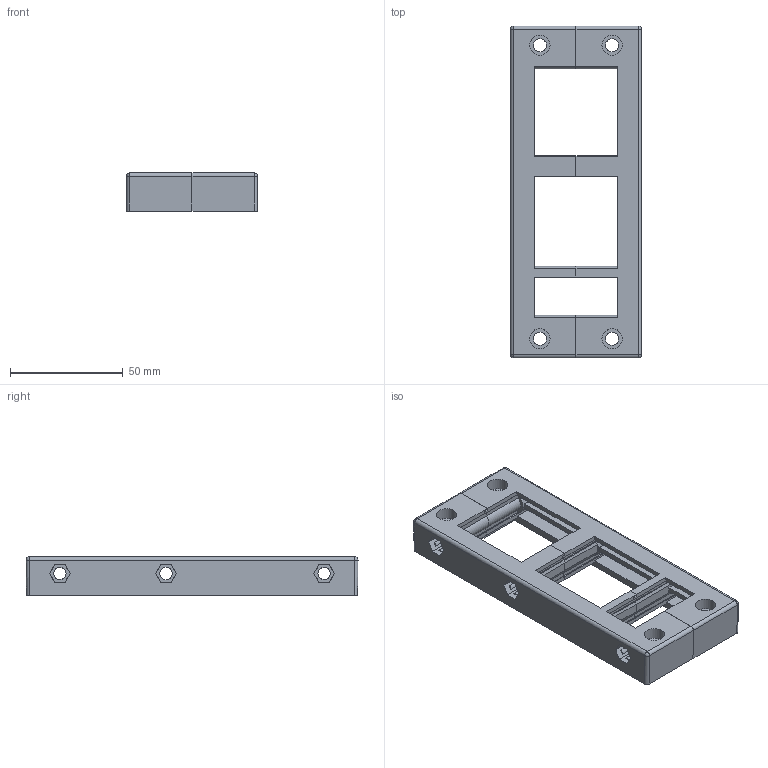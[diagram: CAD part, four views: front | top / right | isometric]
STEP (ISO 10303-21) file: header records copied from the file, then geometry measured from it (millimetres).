
FILE_DESCRIPTION(/* description */ (''),/* implementation_level */ '2;1');
FILE_NAME(/* name */ 'KEL-24-4.stp',/* time_stamp */ '2024-04-20T10:51:16+08:00',/* author */ (''),/* organization */ (''),/* preprocessor_version */ 'ST-DEVELOPER v16.7',/* originating_system */ 'SIEMENS PLM Software NX 12.0',/* authorisation */ '');
FILE_SCHEMA (('AP203_CONFIGURATION_CONTROLLED_3D_DESIGN_OF_MECHANICAL_PARTS_AND_ASSEMBLIES_MIM_LF { 1 0 10303 403 2 1 2}'));
Length unit declared in the file: millimetre
Products named in the file (1): Admi2C5090A07yak
Bounding box: 58 x 147 x 17 mm (x, y, z)
Volume: 55803.6 mm3; surface area: 38723.5 mm2
Topology: 2 solids, 2 shells, 557 faces, 1645 edges, 1112 vertices
Faces by surface type: plane 353, cylinder 125, cone 34, bspline 24, sphere 12, torus 9
Full cylindrical faces by diameter (mm): 3 x2, 5.5 x6, 5.8 x4, 9 x7
Entity records: 19890 total; most frequent: CARTESIAN_POINT 5048, ORIENTED_EDGE 3226, DIRECTION 2891, EDGE_CURVE 1613, VERTEX_POINT 1108, LINE 965, VECTOR 965, AXIS2_PLACEMENT_3D 963
